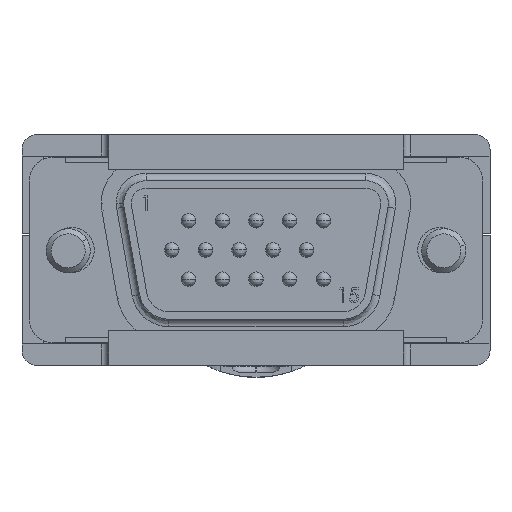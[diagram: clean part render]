
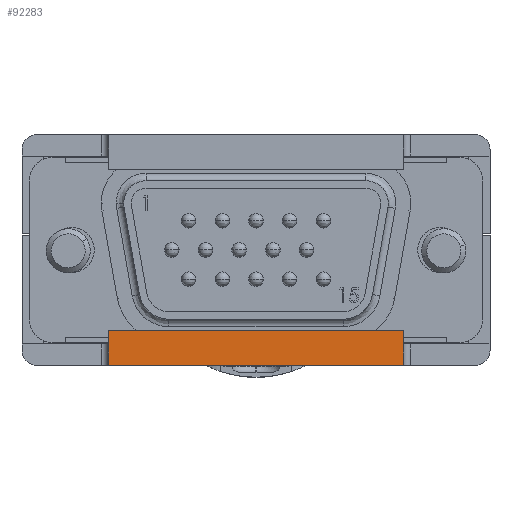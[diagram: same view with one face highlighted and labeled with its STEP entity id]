
A CAD part, front view. The second image highlights one B-rep face of the part: STEP entity #92283.
In plain terms, the highlighted planar face has unit normal (0, -1, 0).
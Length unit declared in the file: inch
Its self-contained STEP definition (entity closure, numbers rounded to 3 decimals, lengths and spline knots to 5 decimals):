
#192 = ORIENTED_EDGE ( 'NONE', *, *, #45531, .F. ) ;
#3149 = CARTESIAN_POINT ( 'NONE',  ( -0.3937, -4.30072, -0.21024 ) ) ;
#6984 = DIRECTION ( 'NONE',  ( 0., 0., -1. ) ) ;
#8079 = EDGE_LOOP ( 'NONE', ( #110024, #54301, #192, #69460 ) ) ;
#14308 = VERTEX_POINT ( 'NONE', #16390 ) ;
#14626 = DIRECTION ( 'NONE',  ( 1., 0., 0. ) ) ;
#15568 = LINE ( 'NONE', #117217, #99479 ) ;
#16390 = CARTESIAN_POINT ( 'NONE',  ( 0.3937, -4.30072, -0.21024 ) ) ;
#22038 = EDGE_CURVE ( 'NONE', #57582, #114135, #15568, .T. ) ;
#24647 = VECTOR ( 'NONE', #77443, 39.37008 ) ;
#32565 = LINE ( 'NONE', #39146, #24647 ) ;
#35278 = DIRECTION ( 'NONE',  ( 0., 0., -1. ) ) ;
#36756 = CARTESIAN_POINT ( 'NONE',  ( 0.3937, -4.30072, -0.24606 ) ) ;
#39146 = CARTESIAN_POINT ( 'NONE',  ( -0.3937, -4.30072, -0.21024 ) ) ;
#45531 = EDGE_CURVE ( 'NONE', #57582, #14308, #32565, .T. ) ;
#48774 = VECTOR ( 'NONE', #6984, 39.37008 ) ;
#50345 = CARTESIAN_POINT ( 'NONE',  ( 0.3937, -4.30072, -0.30315 ) ) ;
#51929 = LINE ( 'NONE', #116511, #48774 ) ;
#54301 = ORIENTED_EDGE ( 'NONE', *, *, #106166, .F. ) ;
#57582 = VERTEX_POINT ( 'NONE', #3149 ) ;
#65426 = DIRECTION ( 'NONE',  ( 0., 1., 0. ) ) ;
#69460 = ORIENTED_EDGE ( 'NONE', *, *, #22038, .T. ) ;
#71476 = EDGE_CURVE ( 'NONE', #114135, #95026, #85263, .T. ) ;
#75017 = DIRECTION ( 'NONE',  ( 0., 0., 1. ) ) ;
#77443 = DIRECTION ( 'NONE',  ( 1., 0., 0. ) ) ;
#85263 = LINE ( 'NONE', #96645, #116570 ) ;
#92283 = ADVANCED_FACE ( 'NONE', ( #110901 ), #112055, .F. ) ;
#95026 = VERTEX_POINT ( 'NONE', #50345 ) ;
#96645 = CARTESIAN_POINT ( 'NONE',  ( 0.3937, -4.30072, -0.30315 ) ) ;
#97255 = AXIS2_PLACEMENT_3D ( 'NONE', #36756, #65426, #75017 ) ;
#99479 = VECTOR ( 'NONE', #35278, 39.37008 ) ;
#102507 = CARTESIAN_POINT ( 'NONE',  ( -0.3937, -4.30072, -0.30315 ) ) ;
#106166 = EDGE_CURVE ( 'NONE', #14308, #95026, #51929, .T. ) ;
#110024 = ORIENTED_EDGE ( 'NONE', *, *, #71476, .T. ) ;
#110901 = FACE_OUTER_BOUND ( 'NONE', #8079, .T. ) ;
#112055 = PLANE ( 'NONE',  #97255 ) ;
#114135 = VERTEX_POINT ( 'NONE', #102507 ) ;
#116511 = CARTESIAN_POINT ( 'NONE',  ( 0.3937, -4.30072, -0.24606 ) ) ;
#116570 = VECTOR ( 'NONE', #14626, 39.37008 ) ;
#117217 = CARTESIAN_POINT ( 'NONE',  ( -0.3937, -4.30072, -0.24606 ) ) ;
